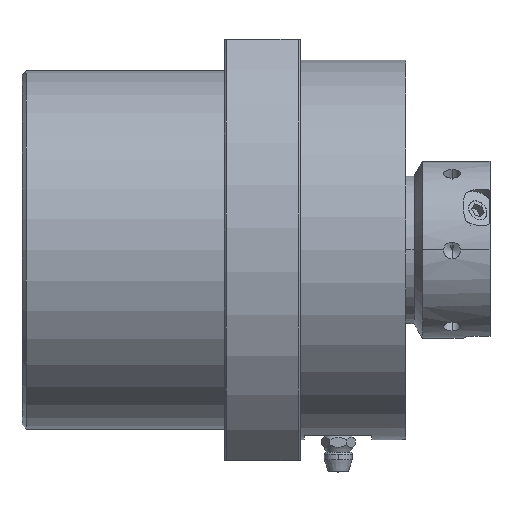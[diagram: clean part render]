
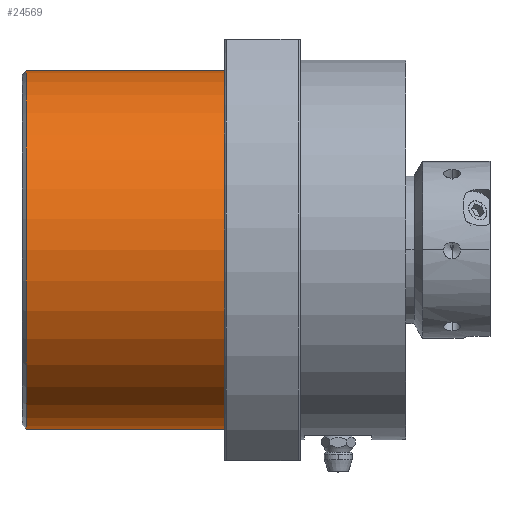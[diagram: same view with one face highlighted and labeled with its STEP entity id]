
A CAD part, front view. The second image highlights one B-rep face of the part: STEP entity #24569.
In plain terms, the highlighted cylindrical face has radius 42.5 mm (diameter 85 mm), a partial arc.
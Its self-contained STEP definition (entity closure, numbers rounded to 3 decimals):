
#3753 = VERTEX_POINT ( 'NONE', #6583 ) ;
#4087 = EDGE_LOOP ( 'NONE', ( #15422, #13173, #17203, #24031 ) ) ;
#4300 = LINE ( 'NONE', #22476, #21796 ) ;
#5973 = CARTESIAN_POINT ( 'NONE',  ( 68.25, 0., -42.5 ) ) ;
#6583 = CARTESIAN_POINT ( 'NONE',  ( 48., 0., 42.5 ) ) ;
#7342 = CARTESIAN_POINT ( 'NONE',  ( 1., 0., -42.5 ) ) ;
#7958 = LINE ( 'NONE', #5973, #13087 ) ;
#8879 = AXIS2_PLACEMENT_3D ( 'NONE', #11590, #9380, #9277 ) ;
#9277 = DIRECTION ( 'NONE',  ( 0., 0., -1. ) ) ;
#9380 = DIRECTION ( 'NONE',  ( 1., 0., 0. ) ) ;
#9511 = CARTESIAN_POINT ( 'NONE',  ( 68.25, 0., 0. ) ) ;
#10900 = DIRECTION ( 'NONE',  ( 0., 0., -1. ) ) ;
#11378 = EDGE_CURVE ( 'NONE', #12407, #22674, #7958, .T. ) ;
#11537 = FACE_OUTER_BOUND ( 'NONE', #4087, .T. ) ;
#11590 = CARTESIAN_POINT ( 'NONE',  ( 1., 0., 0. ) ) ;
#12407 = VERTEX_POINT ( 'NONE', #7342 ) ;
#13087 = VECTOR ( 'NONE', #23042, 1000. ) ;
#13173 = ORIENTED_EDGE ( 'NONE', *, *, #13729, .T. ) ;
#13729 = EDGE_CURVE ( 'NONE', #28283, #12407, #23027, .T. ) ;
#15422 = ORIENTED_EDGE ( 'NONE', *, *, #18015, .F. ) ;
#17203 = ORIENTED_EDGE ( 'NONE', *, *, #11378, .T. ) ;
#17547 = DIRECTION ( 'NONE',  ( -1., 0., 0. ) ) ;
#18015 = EDGE_CURVE ( 'NONE', #28283, #3753, #4300, .T. ) ;
#18186 = DIRECTION ( 'NONE',  ( 0., 0., -1. ) ) ;
#19477 = CARTESIAN_POINT ( 'NONE',  ( 48., 0., 0. ) ) ;
#20707 = EDGE_CURVE ( 'NONE', #22674, #3753, #25446, .T. ) ;
#21514 = CYLINDRICAL_SURFACE ( 'NONE', #25836, 42.5 ) ;
#21796 = VECTOR ( 'NONE', #24664, 1000. ) ;
#22476 = CARTESIAN_POINT ( 'NONE',  ( 68.25, 0., 42.5 ) ) ;
#22674 = VERTEX_POINT ( 'NONE', #28186 ) ;
#23027 = CIRCLE ( 'NONE', #8879, 42.5 ) ;
#23042 = DIRECTION ( 'NONE',  ( 1., 0., 0. ) ) ;
#24031 = ORIENTED_EDGE ( 'NONE', *, *, #20707, .T. ) ;
#24569 = ADVANCED_FACE ( 'NONE', ( #11537 ), #21514, .T. ) ;
#24664 = DIRECTION ( 'NONE',  ( 1., 0., 0. ) ) ;
#24755 = CARTESIAN_POINT ( 'NONE',  ( 1., 0., 42.5 ) ) ;
#25446 = CIRCLE ( 'NONE', #26132, 42.5 ) ;
#25836 = AXIS2_PLACEMENT_3D ( 'NONE', #9511, #26915, #18186 ) ;
#26132 = AXIS2_PLACEMENT_3D ( 'NONE', #19477, #17547, #10900 ) ;
#26915 = DIRECTION ( 'NONE',  ( 1., 0., 0. ) ) ;
#28186 = CARTESIAN_POINT ( 'NONE',  ( 48., 0., -42.5 ) ) ;
#28283 = VERTEX_POINT ( 'NONE', #24755 ) ;
